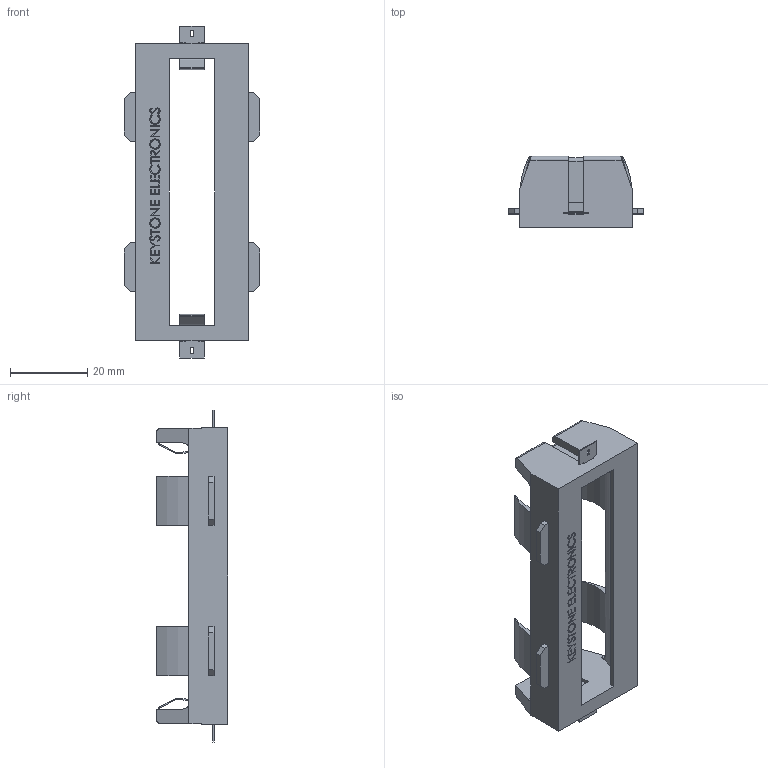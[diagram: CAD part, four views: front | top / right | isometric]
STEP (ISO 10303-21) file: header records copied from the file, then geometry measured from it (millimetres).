
FILE_DESCRIPTION (( 'STEP AP214' ), '1' );
FILE_NAME ('1106.STEP', '2014-12-15T15:27:57', ( '' ), ( '' ), 'SwSTEP 2.0', 'SolidWorks 2013', '' );
FILE_SCHEMA (( 'AUTOMOTIVE_DESIGN' ));
Length unit declared in the file: inch
Products named in the file (1): 1106
Bounding box: 35.15 x 18.41 x 85.95 mm (x, y, z)
Volume: 10684.8 mm3; surface area: 9099.8 mm2
Topology: 1 solids, 1 shells, 410 faces, 1123 edges, 744 vertices
Faces by surface type: plane 317, bspline 69, cylinder 24
Entity records: 17542 total; most frequent: CARTESIAN_POINT 6815, ORIENTED_EDGE 2246, DIRECTION 1713, EDGE_CURVE 1123, VECTOR 917, LINE 917, VERTEX_POINT 744, EDGE_LOOP 445
